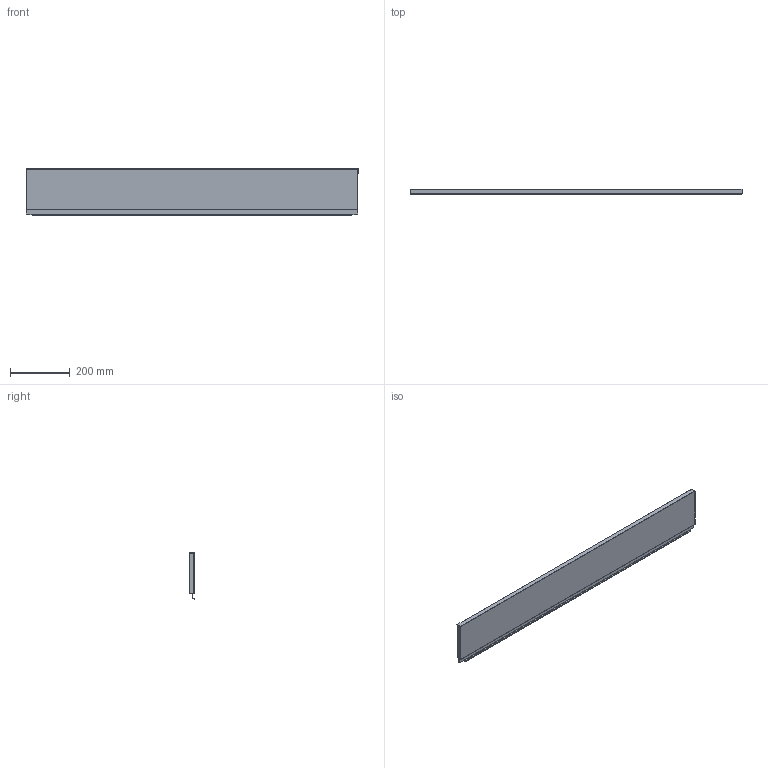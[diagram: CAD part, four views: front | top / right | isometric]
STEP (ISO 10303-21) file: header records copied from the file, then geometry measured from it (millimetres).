
FILE_DESCRIPTION (( 'STEP AP214' ), '1' );
FILE_NAME ('_STRW_H154_KAB_1200.step', '2010-08-24T14:40:41', ( 'grass' ), ( '' ), 'SwSTEP 2.0', 'SolidWorks 2009', '' );
FILE_SCHEMA (( 'AUTOMOTIVE_DESIGN' ));
Length unit declared in the file: millimetre
Products named in the file (1): _STRW_H154_KAB_1200
Bounding box: 1110 x 17 x 154.14 mm (x, y, z)
Volume: 164772.8 mm3; surface area: 414076.3 mm2
Topology: 1 solids, 1 shells, 76 faces, 214 edges, 140 vertices
Faces by surface type: plane 54, cylinder 22
Entity records: 2472 total; most frequent: CARTESIAN_POINT 431, ORIENTED_EDGE 428, DIRECTION 412, EDGE_CURVE 214, LINE 170, VECTOR 170, VERTEX_POINT 140, AXIS2_PLACEMENT_3D 121
